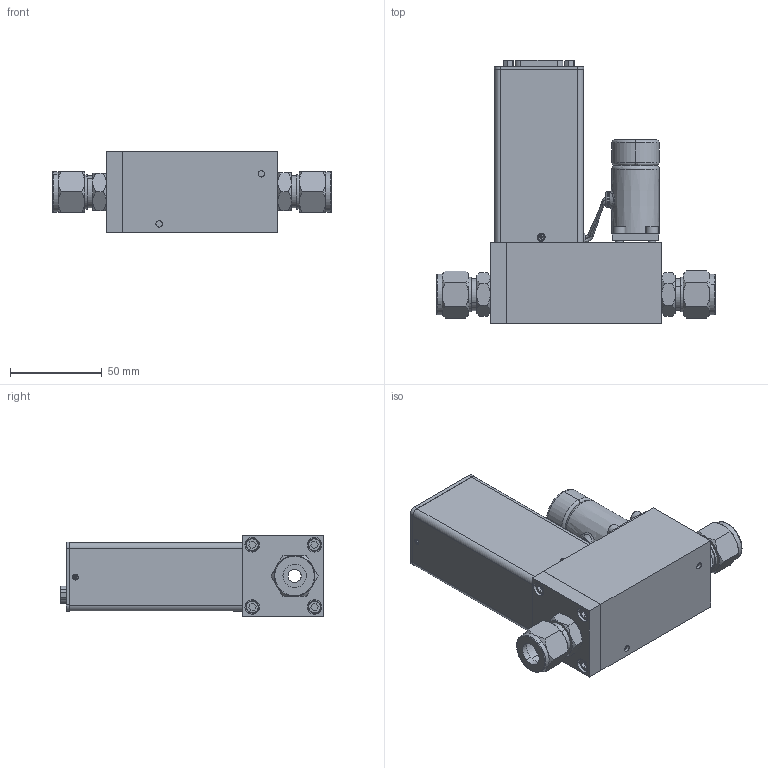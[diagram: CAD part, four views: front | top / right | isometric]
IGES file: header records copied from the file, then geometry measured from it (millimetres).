
Start section: SolidWorks IGES file using analytic representation for surfaces
Global section: file name: G:\Engineering\CAD MODELS FOR SALES\CAD MODEL STORAGE\SLA\SLA5851\CUSTOMER FILES\IGES\SLA5851-S-1P-1-C-REVB.IGS; native system: SolidWorks 2020; preprocessor: SolidWorks 2020; author: CFehr; date: 211119.102830; units: inch
Bounding box: 151.97 x 143.86 x 44.31 mm (x, y, z)
Volume: 91512.2 mm3; surface area: 107080.4 mm2
Topology: 34 solids, 34 shells, 1379 faces, 3568 edges, 2290 vertices
Faces by surface type: plane 672, revolution 624, bspline 83
